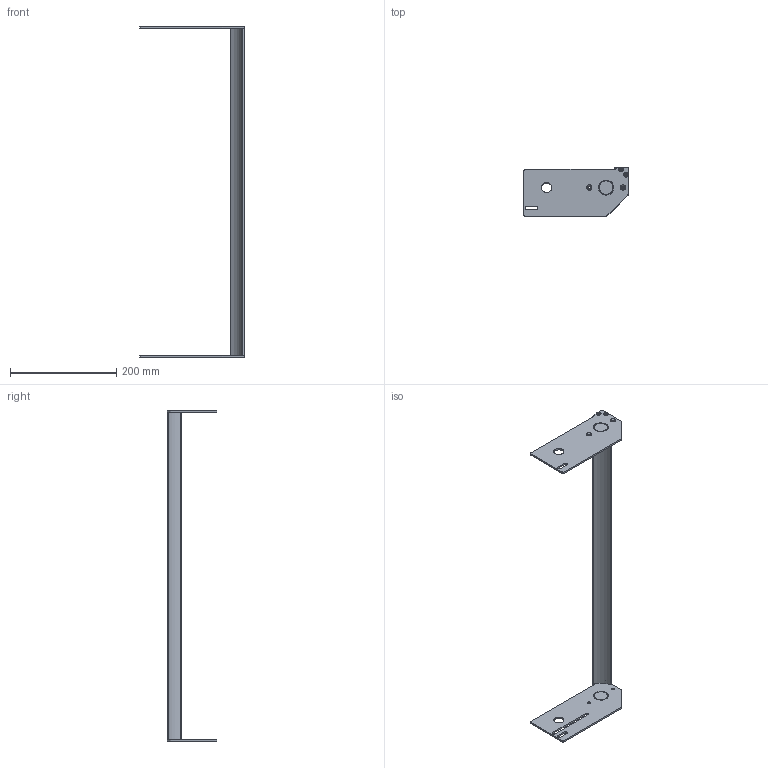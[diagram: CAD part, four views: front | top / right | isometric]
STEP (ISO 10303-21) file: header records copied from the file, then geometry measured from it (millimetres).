
FILE_DESCRIPTION((''),'2;1');
FILE_NAME('27M3301-20_ASM','2022-06-23T',('james.horst'),(''),'PRO/ENGINEER BY PARAMETRIC TECHNOLOGY CORPORATION, 2012420','PRO/ENGINEER BY PARAMETRIC TECHNOLOGY CORPORATION, 2012420','');
FILE_SCHEMA(('CONFIG_CONTROL_DESIGN'));
Length unit declared in the file: inch
Products named in the file (6): 350539-24; 350537_1_1_1; 930410M_1_1; 350538_1_1_1; 27M3300-20_ASM_1_ASM; 27M3301-20_ASM
Assembly tree (8 placements, depth 3):
  27M3301-20_ASM
    27M3300-20_ASM_1_ASM
      350539-24
      350537_1_1_1
      930410M_1_1  x4
      350538_1_1_1
Bounding box: 196.06 x 92.74 x 621.94 mm (x, y, z)
Volume: 273271 mm3; surface area: 138469.8 mm2
Topology: 7 solids, 11 shells, 199 faces, 529 edges, 348 vertices
Faces by surface type: cylinder 87, plane 80, cone 32
Entity records: 5165 total; most frequent: DIRECTION 941, CARTESIAN_POINT 894, ORIENTED_EDGE 814, EDGE_CURVE 415, AXIS2_PLACEMENT_3D 361, VERTEX_POINT 276, VECTOR 219, LINE 219
